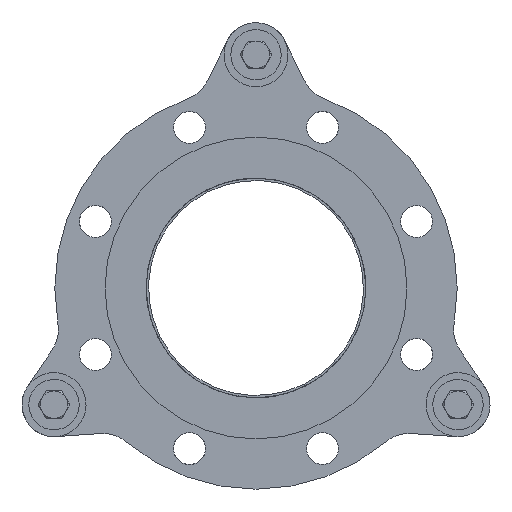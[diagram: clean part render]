
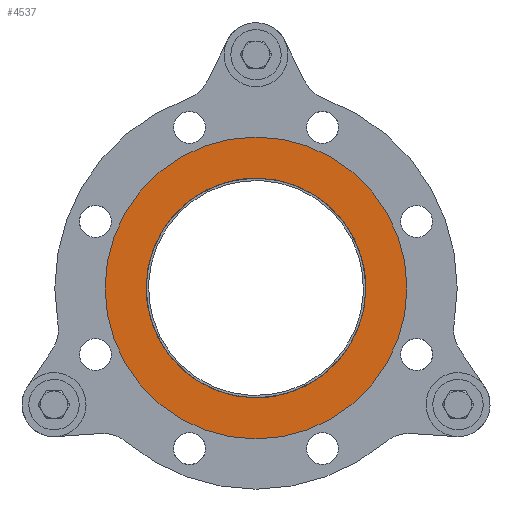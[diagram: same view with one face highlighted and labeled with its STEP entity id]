
A CAD part, front view. The second image highlights one B-rep face of the part: STEP entity #4537.
In plain terms, the highlighted planar face has unit normal (0, -1, 0).
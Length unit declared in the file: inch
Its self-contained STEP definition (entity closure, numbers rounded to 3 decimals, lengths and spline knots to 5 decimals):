
#480=PLANE('',#4957);
#656=FACE_BOUND('',#1263,.T.);
#889=FACE_OUTER_BOUND('',#1262,.T.);
#1262=EDGE_LOOP('',(#3166));
#1263=EDGE_LOOP('',(#3167));
#1799=CIRCLE('',#4953,3.);
#1800=CIRCLE('',#4955,4.125);
#2123=VERTEX_POINT('',#7090);
#2124=VERTEX_POINT('',#7093);
#2549=EDGE_CURVE('',#2123,#2123,#1799,.T.);
#2550=EDGE_CURVE('',#2124,#2124,#1800,.T.);
#3166=ORIENTED_EDGE('',*,*,#2550,.T.);
#3167=ORIENTED_EDGE('',*,*,#2549,.T.);
#4537=ADVANCED_FACE('',(#889,#656),#480,.T.);
#4953=AXIS2_PLACEMENT_3D('',#7091,#5732,#5733);
#4955=AXIS2_PLACEMENT_3D('',#7094,#5736,#5737);
#4957=AXIS2_PLACEMENT_3D('',#7097,#5740,#5741);
#5732=DIRECTION('center_axis',(0.,1.,0.));
#5733=DIRECTION('ref_axis',(-1.,0.,0.));
#5736=DIRECTION('center_axis',(0.,-1.,0.));
#5737=DIRECTION('ref_axis',(1.,0.,0.));
#5740=DIRECTION('center_axis',(0.,-1.,0.));
#5741=DIRECTION('ref_axis',(0.,0.,
1.));
#7090=CARTESIAN_POINT('',(-3.,0.,0.));
#7091=CARTESIAN_POINT('Origin',(0.,0.,
0.));
#7093=CARTESIAN_POINT('',(-4.125,0.,0.));
#7094=CARTESIAN_POINT('Origin',(0.,0.,
0.));
#7097=CARTESIAN_POINT('Origin',(0.,0.,
0.));
